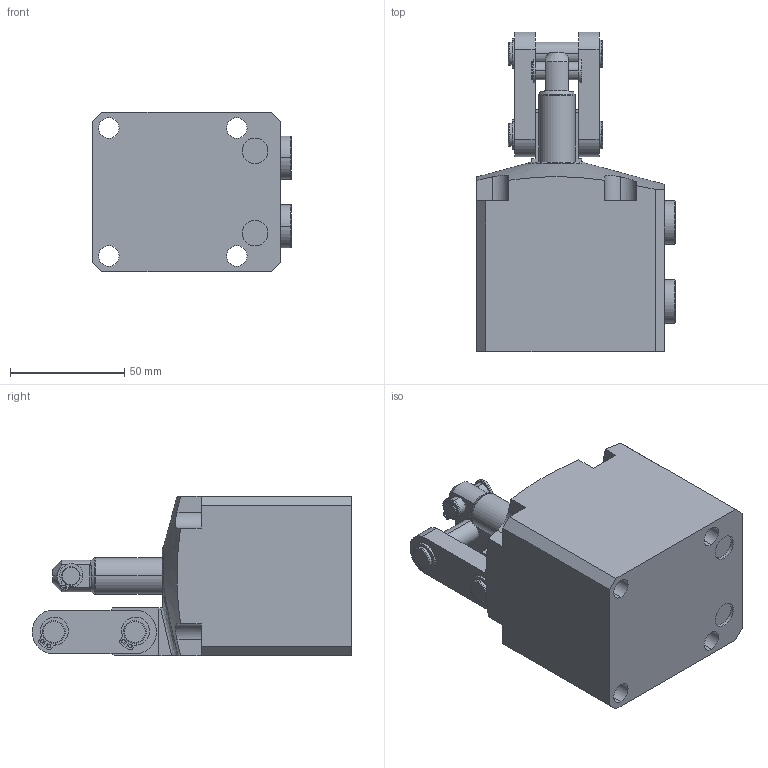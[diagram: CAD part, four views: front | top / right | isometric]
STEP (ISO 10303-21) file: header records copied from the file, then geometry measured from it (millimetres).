
FILE_DESCRIPTION(/* description */ (''),/* implementation_level */ '2;1');
FILE_NAME(/* name */ 'BPC10-R.stp',/* time_stamp */ '2025-01-05T10:00:00+08:00',/* author */ (''),/* organization */ (''),/* preprocessor_version */ 'ST-DEVELOPER v16.7',/* originating_system */ 'SIEMENS PLM Software NX 12.0',/* authorisation */ '');
FILE_SCHEMA (('AUTOMOTIVE_DESIGN { 1 0 10303 214 3 1 1 1 }'));
Length unit declared in the file: millimetre
Products named in the file (5): BPC10-R-02; BPC10-R-04; BPC10-R-03; BPC10-R-01; BPC10-R_stp
Assembly tree (5 placements, depth 2):
  BPC10-R_stp
    BPC10-R-01
    BPC10-R-03
    BPC10-R-04  x2
    BPC10-R-02
Bounding box: 86.8 x 140 x 70 mm (x, y, z)
Volume: 456729 mm3; surface area: 60000 mm2
Topology: 5 solids, 5 shells, 265 faces, 647 edges, 416 vertices
Faces by surface type: plane 112, cylinder 111, torus 21, cone 17, bspline 4
Entity records: 7705 total; most frequent: CARTESIAN_POINT 1653, DIRECTION 1302, ORIENTED_EDGE 1202, EDGE_CURVE 601, AXIS2_PLACEMENT_3D 504, VERTEX_POINT 388, LINE 294, VECTOR 294
